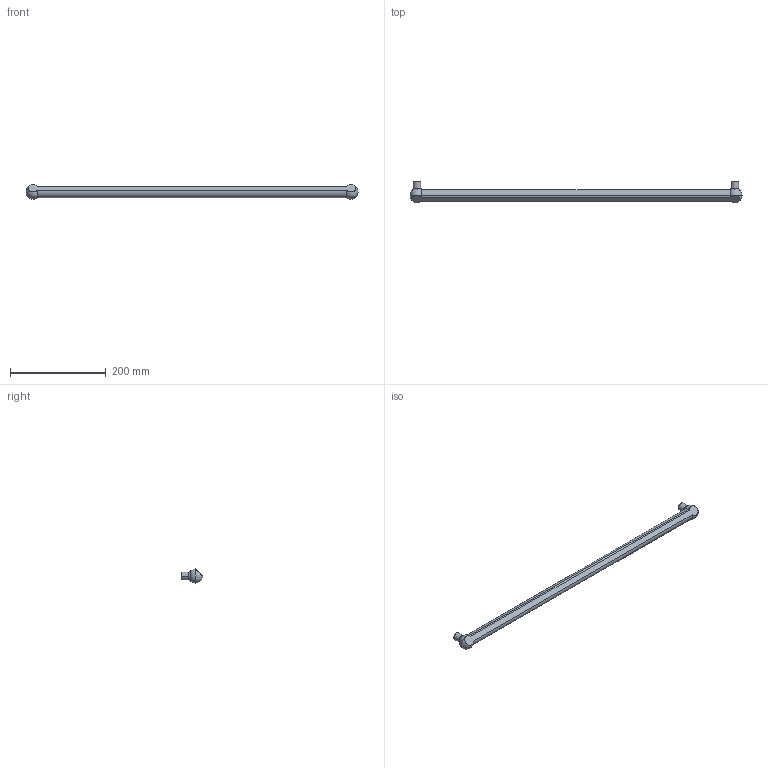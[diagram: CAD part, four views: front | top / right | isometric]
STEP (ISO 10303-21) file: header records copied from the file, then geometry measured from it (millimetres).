
FILE_DESCRIPTION( ( '' ), '1' );
FILE_NAME( 'D:/1.AUTOCAD EXPORT/Group 10/sheet_10_1/9105772.stp', '2013-10-18T08:23:53', ( '' ), ( '' ), ' ', ' ', ' ' );
FILE_SCHEMA( ( 'automotive_design' ) );
Length unit declared in the file: millimetre
Products named in the file (1): 1
Bounding box: 695 x 45 x 30 mm (x, y, z)
Volume: 315945.5 mm3; surface area: 54777.2 mm2
Topology: 1 solids, 1 shells, 26 faces, 72 edges, 40 vertices
Faces by surface type: cylinder 11, sphere 6, plane 5, torus 4
Entity records: 1548 total; most frequent: DIRECTION 162, CARTESIAN_POINT 157, STYLED_ITEM 129, PRESENTATION_STYLE_ASSIGNMENT 129, COLOUR_RGB 129, ORIENTED_EDGE 124, AXIS2_PLACEMENT_3D 75, EDGE_CURVE 62
